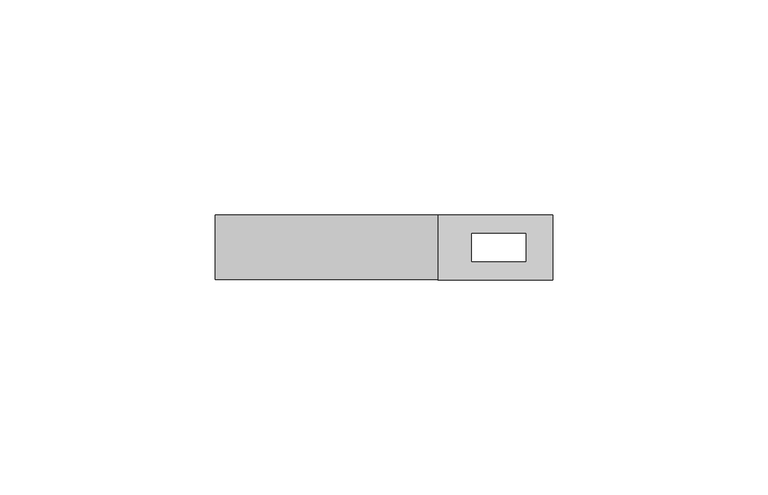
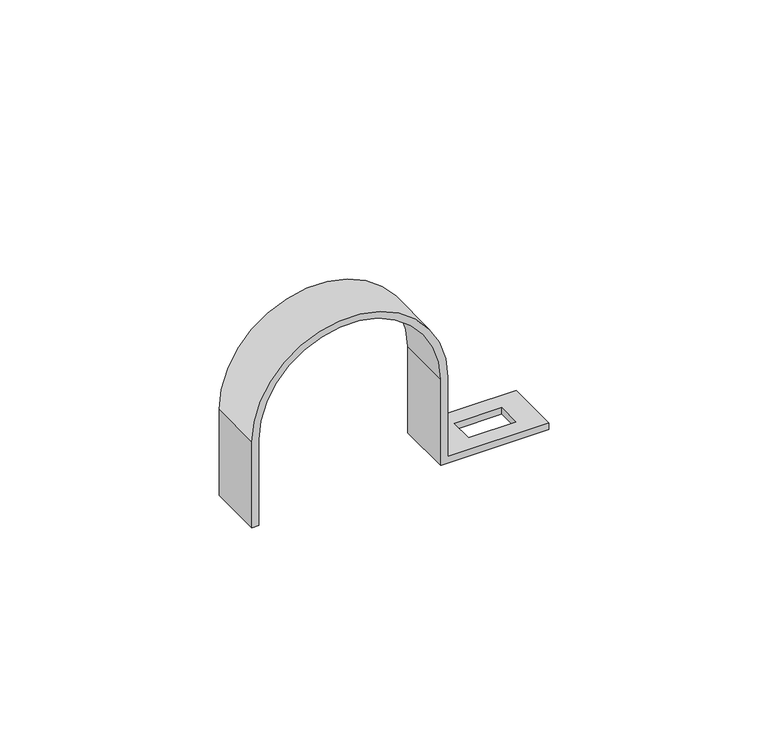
"""IFC4 building model written with IfcOpenShell, lengths in millimetres: cable carrier fitting geometry, КНС_ДержательОцинкованныйОдносторонний_DKC : д.48 - 50мм."""

from ifc_helpers import new_model, si_unit, frame, origin, place, context, project, spatial, polyline, circle_curve, source, transform, mapped, element, save
from ifc_brep_helpers import plane_surface, cylinder_surface, revolved_surface, advanced_brep


def cable_carrier_fitting_31fdd750(model_context):
    return source(origin(), model_context, "Body", "AdvancedBrep", [
        advanced_brep(
        [(52.5, -7.5, 0.0), (52.5, -7.5, 1.8), (25.8, -7.5, 1.8), (25.8, -7.5, 24.0), (-25.8, -7.5, 24.0), (-25.8, -7.5, 0.0), (-24.0, -7.5, 0.0), (-24.0, -7.5, 24.0), (24.0, -7.5, 24.0), (24.0, -7.5, 0.0), (52.5, 7.5, 0.0), (24.0, 7.5, 0.0), (24.0, 7.5, 24.0), (-24.0, 7.5, 24.0), (-24.0, 7.5, 0.0), (-25.8, 7.5, 0.0), (-25.8, 7.5, 24.0), (25.8, 7.5, 24.0), (25.8, 7.5, 1.8), (52.5, 7.5, 1.8), (46.25, -3.25, 1.8), (33.75, -3.25, 1.8), (33.75, 3.25, 1.8), (46.25, 3.25, 1.8), (33.75, -3.25, 0.0), (46.25, -3.25, 0.0), (46.25, 3.25, 0.0), (33.75, 3.25, 0.0)],
        [
            (0, 1),
            (1, 2),
            (2, 3),
            (3, 4, circle_curve(frame((0.0, -7.5, 24.0), z_axis=(0.0, -1.0, 0.0), x_axis=(1.0, 0.0, 0.0)), 25.8)),
            (4, 5),
            (5, 6),
            (6, 7),
            (7, 8, circle_curve(frame((0.0, -7.5, 24.0), z_axis=(0.0, 1.0, 0.0), x_axis=(1.0, 0.0, 0.0)), 24.0)),
            (8, 9),
            (9, 0),
            (10, 11),
            (11, 12),
            (12, 13, circle_curve(frame((0.0, 7.5, 24.0), z_axis=(0.0, -1.0, 0.0), x_axis=(1.0, 0.0, 0.0)), 24.0)),
            (13, 14),
            (14, 15),
            (15, 16),
            (16, 17, circle_curve(frame((0.0, 7.5, 24.0), z_axis=(0.0, 1.0, 0.0), x_axis=(1.0, 0.0, 0.0)), 25.8)),
            (17, 18),
            (18, 19),
            (19, 10),
            (0, 10),
            (19, 1),
            (18, 2),
            (20, 21),
            (21, 22),
            (22, 23),
            (23, 20),
            (17, 3),
            (16, 4),
            (15, 5),
            (14, 6),
            (13, 7),
            (12, 8),
            (11, 9),
            (24, 25),
            (25, 26),
            (26, 27),
            (27, 24),
            (24, 21),
            (20, 25),
            (23, 26),
            (22, 27),
        ],
        [
            plane_surface(frame((52.5, -7.5, 1.8), z_axis=(0.0, -1.0, 0.0), x_axis=(0.0, 0.0, 1.0))),
            plane_surface(frame((52.5, 7.5, 1.8), z_axis=(0.0, 1.0, 0.0), x_axis=(0.0, 0.0, -1.0))),
            plane_surface(frame((52.5, -7.5, 0.0), z_axis=(1.0, 0.0, 0.0), x_axis=(0.0, 1.0, 0.0))),
            plane_surface(frame((52.5, -7.5, 1.8), z_axis=(0.0, 0.0, 1.0), x_axis=(0.0, 1.0, 0.0))),
            plane_surface(frame((25.8, -7.5, 1.8), z_axis=(1.0, 0.0, 0.0), x_axis=(0.0, 1.0, 0.0))),
            cylinder_surface(frame((0.0, 7.5, 24.0), z_axis=(0.0, -1.0, 0.0), x_axis=(1.0, 0.0, 0.0)), 25.8),
            plane_surface(frame((-25.8, -7.5, 24.0), z_axis=(-1.0, 0.0, 0.0), x_axis=(0.0, 1.0, 0.0))),
            plane_surface(frame((-25.8, -7.5, 0.0), z_axis=(0.0, 0.0, -1.0), x_axis=(0.0, 1.0, 0.0))),
            plane_surface(frame((-24.0, -7.5, 0.0), z_axis=(1.0, 0.0, 0.0), x_axis=(0.0, 1.0, 0.0))),
            revolved_surface(polyline([(24.0, 7.5, 24.0), (24.0, -7.5, 24.0)]), (0.0, 7.5, 24.0), (0.0, 1.0, 0.0)),
            plane_surface(frame((24.0, -7.5, 24.0), z_axis=(-1.0, 0.0, 0.0), x_axis=(0.0, 1.0, 0.0))),
            plane_surface(frame((24.0, -7.5, 0.0), z_axis=(0.0, 0.0, -1.0), x_axis=(0.0, 1.0, 0.0))),
            plane_surface(frame((33.75, -3.25, 21.959409), z_axis=(0.0, 1.0, 0.0), x_axis=(0.0, 0.0, -1.0))),
            plane_surface(frame((46.25, -3.25, 21.959409), z_axis=(-1.0, 0.0, 0.0), x_axis=(0.0, 0.0, -1.0))),
            plane_surface(frame((46.25, 3.25, 21.959409), z_axis=(0.0, -1.0, 0.0), x_axis=(0.0, 0.0, -1.0))),
            plane_surface(frame((33.75, 3.25, 21.959409), z_axis=(1.0, 0.0, 0.0), x_axis=(0.0, 0.0, -1.0))),
        ],
        [
            (0, [[1, 2, 3, 4, 5, 6, 7, 8, 9, 10]]),
            (1, [[11, 12, 13, 14, 15, 16, 17, 18, 19, 20]]),
            (2, [[-1, 21, -20, 22]]),
            (3, [[-2, -22, -19, 23], [24, 25, 26, 27]]),
            (4, [[-3, -23, -18, 28]]),
            (5, [[-4, -28, -17, 29]]),
            (6, [[-5, -29, -16, 30]]),
            (7, [[-6, -30, -15, 31]]),
            (8, [[-7, -31, -14, 32]]),
            (9, [[-8, -32, -13, 33]]),
            (10, [[-9, -33, -12, 34]]),
            (11, [[-10, -34, -11, -21], [35, 36, 37, 38]]),
            (12, [[39, -24, 40, -35]]),
            (13, [[-40, -27, 41, -36]]),
            (14, [[-41, -26, 42, -37]]),
            (15, [[-39, -38, -42, -25]]),
        ],
    ),
    ])


if __name__ == "__main__":
    model = new_model("IFC4")
    model_context = context("Model", 3, world=origin())
    ifc_project = project(units=[si_unit("LENGTHUNIT", "METRE", prefix="MILLI")], contexts=[model_context])
    site = spatial("IfcSite", under=ifc_project)
    building = spatial("IfcBuilding", under=site)
    placement = place(None, origin())
    cable_carrier_fitting_shape = cable_carrier_fitting_31fdd750(model_context)
    element("IfcCableCarrierFitting", 1, ObjectType="КНС_ДержательОцинкованныйОдносторонний_DKC : д.48 - 50мм", at=placement, inside=building, context=model_context, shape_type="MappedRepresentation", body=[
        mapped(cable_carrier_fitting_shape, transform((0.0, 0.0, 0.0), x_axis=(1.0, 0.0, 0.0), y_axis=(0.0, 1.0, 0.0), z_axis=(0.0, 0.0, 1.0))),
    ])
    save(model, "model.ifc")
